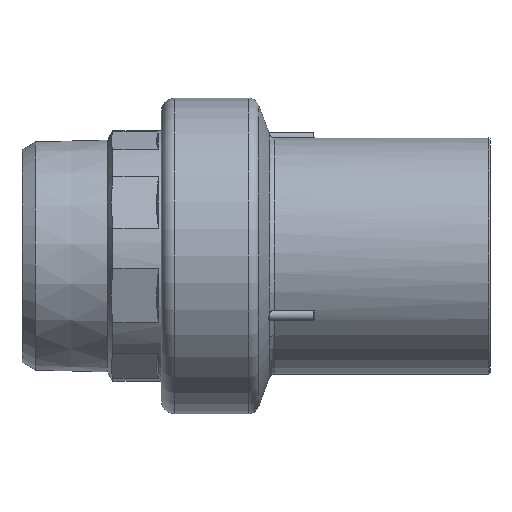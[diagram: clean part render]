
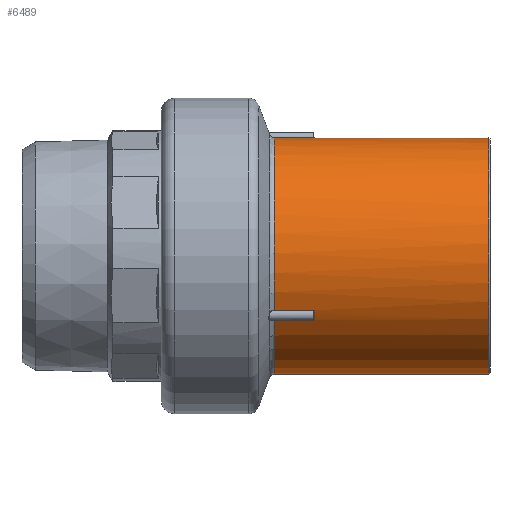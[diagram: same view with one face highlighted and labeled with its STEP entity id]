
A CAD part, front view. The second image highlights one B-rep face of the part: STEP entity #6489.
In plain terms, the highlighted cylindrical face has radius 45 mm (diameter 90 mm), a full revolution.
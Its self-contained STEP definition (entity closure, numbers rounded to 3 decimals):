
#32=LINE('',#12637,#60);
#35=LINE('',#12692,#63);
#36=LINE('',#12799,#64);
#39=LINE('',#12848,#67);
#40=LINE('',#12902,#68);
#41=LINE('',#12916,#69);
#60=VECTOR('',#9535,1000.);
#63=VECTOR('',#9560,1000.);
#64=VECTOR('',#9581,1000.);
#67=VECTOR('',#9606,1000.);
#68=VECTOR('',#9623,1000.);
#69=VECTOR('',#9626,1000.);
#228=CYLINDRICAL_SURFACE('',#8415,45.);
#512=CIRCLE('',#8369,45.);
#520=CIRCLE('',#8379,45.);
#526=CIRCLE('',#8390,45.);
#534=CIRCLE('',#8400,45.);
#540=CIRCLE('',#8411,45.);
#543=CIRCLE('',#8416,45.);
#544=CIRCLE('',#8417,45.);
#987=B_SPLINE_CURVE_WITH_KNOTS('',3,(#12705,#12706,#12707,#12708),
 .UNSPECIFIED.,.F.,.F.,(4,4),(0.,0.),.UNSPECIFIED.);
#988=B_SPLINE_CURVE_WITH_KNOTS('',3,(#12721,#12722,#12723,#12724),
 .UNSPECIFIED.,.F.,.F.,(4,4),(0.,0.),.UNSPECIFIED.);
#997=B_SPLINE_CURVE_WITH_KNOTS('',3,(#12861,#12862,#12863,#12864),
 .UNSPECIFIED.,.F.,.F.,(4,4),(0.,0.),.UNSPECIFIED.);
#998=B_SPLINE_CURVE_WITH_KNOTS('',3,(#12877,#12878,#12879,#12880),
 .UNSPECIFIED.,.F.,.F.,(4,4),(0.,0.),.UNSPECIFIED.);
#1001=B_SPLINE_CURVE_WITH_KNOTS('',3,(#12904,#12905,#12906,#12907),
 .UNSPECIFIED.,.F.,.F.,(4,4),(0.,0.),.UNSPECIFIED.);
#1002=B_SPLINE_CURVE_WITH_KNOTS('',3,(#12911,#12912,#12913,#12914),
 .UNSPECIFIED.,.F.,.F.,(4,4),(0.,0.),.UNSPECIFIED.);
#2300=ORIENTED_EDGE('',*,*,#3932,.F.);
#2301=ORIENTED_EDGE('',*,*,#3937,.T.);
#2302=ORIENTED_EDGE('',*,*,#3938,.F.);
#2303=ORIENTED_EDGE('',*,*,#3939,.T.);
#2304=ORIENTED_EDGE('',*,*,#3940,.F.);
#2305=ORIENTED_EDGE('',*,*,#3941,.T.);
#2306=ORIENTED_EDGE('',*,*,#3904,.F.);
#2307=ORIENTED_EDGE('',*,*,#3915,.T.);
#2308=ORIENTED_EDGE('',*,*,#3930,.F.);
#2309=ORIENTED_EDGE('',*,*,#3920,.T.);
#2310=ORIENTED_EDGE('',*,*,#3931,.F.);
#2311=ORIENTED_EDGE('',*,*,#3929,.T.);
#2312=ORIENTED_EDGE('',*,*,#3875,.F.);
#2313=ORIENTED_EDGE('',*,*,#3886,.T.);
#2314=ORIENTED_EDGE('',*,*,#3902,.F.);
#2315=ORIENTED_EDGE('',*,*,#3892,.T.);
#2316=ORIENTED_EDGE('',*,*,#3903,.F.);
#2317=ORIENTED_EDGE('',*,*,#3901,.T.);
#2318=ORIENTED_EDGE('',*,*,#3942,.T.);
#3875=EDGE_CURVE('',#4786,#4787,#512,.T.);
#3886=EDGE_CURVE('',#4786,#4795,#32,.F.);
#3892=EDGE_CURVE('',#4800,#4799,#520,.F.);
#3901=EDGE_CURVE('',#4803,#4796,#35,.T.);
#3902=EDGE_CURVE('',#4800,#4795,#987,.T.);
#3903=EDGE_CURVE('',#4803,#4799,#988,.T.);
#3904=EDGE_CURVE('',#4804,#4805,#526,.T.);
#3915=EDGE_CURVE('',#4804,#4812,#36,.F.);
#3920=EDGE_CURVE('',#4816,#4815,#534,.F.);
#3929=EDGE_CURVE('',#4819,#4787,#39,.T.);
#3930=EDGE_CURVE('',#4816,#4812,#997,.T.);
#3931=EDGE_CURVE('',#4819,#4815,#998,.T.);
#3932=EDGE_CURVE('',#4820,#4796,#540,.T.);
#3937=EDGE_CURVE('',#4820,#4823,#40,.F.);
#3938=EDGE_CURVE('',#4824,#4823,#1001,.T.);
#3939=EDGE_CURVE('',#4824,#4825,#543,.F.);
#3940=EDGE_CURVE('',#4826,#4825,#1002,.T.);
#3941=EDGE_CURVE('',#4826,#4805,#41,.T.);
#3942=EDGE_CURVE('',#4827,#4827,#544,.F.);
#4786=VERTEX_POINT('',#12566);
#4787=VERTEX_POINT('',#12567);
#4795=VERTEX_POINT('',#12636);
#4796=VERTEX_POINT('',#12655);
#4799=VERTEX_POINT('',#12670);
#4800=VERTEX_POINT('',#12672);
#4803=VERTEX_POINT('',#12690);
#4804=VERTEX_POINT('',#12729);
#4805=VERTEX_POINT('',#12730);
#4812=VERTEX_POINT('',#12798);
#4815=VERTEX_POINT('',#12826);
#4816=VERTEX_POINT('',#12828);
#4819=VERTEX_POINT('',#12846);
#4820=VERTEX_POINT('',#12885);
#4823=VERTEX_POINT('',#12903);
#4824=VERTEX_POINT('',#12908);
#4825=VERTEX_POINT('',#12910);
#4826=VERTEX_POINT('',#12915);
#4827=VERTEX_POINT('',#12918);
#5519=EDGE_LOOP('',(#2300,#2301,#2302,#2303,#2304,#2305,#2306,#2307,#2308,
#2309,#2310,#2311,#2312,#2313,#2314,#2315,#2316,#2317));
#5520=EDGE_LOOP('',(#2318));
#5969=FACE_BOUND('',#5519,.T.);
#5970=FACE_BOUND('',#5520,.T.);
#6489=ADVANCED_FACE('',(#5969,#5970),#228,.T.);
#8369=AXIS2_PLACEMENT_3D('',#12565,#9521,#9522);
#8379=AXIS2_PLACEMENT_3D('',#12671,#9543,#9544);
#8390=AXIS2_PLACEMENT_3D('',#12728,#9567,#9568);
#8400=AXIS2_PLACEMENT_3D('',#12827,#9589,#9590);
#8411=AXIS2_PLACEMENT_3D('',#12884,#9613,#9614);
#8415=AXIS2_PLACEMENT_3D('',#12901,#9621,#9622);
#8416=AXIS2_PLACEMENT_3D('',#12909,#9624,#9625);
#8417=AXIS2_PLACEMENT_3D('',#12917,#9627,#9628);
#9521=DIRECTION('',(-1.,0.,0.));
#9522=DIRECTION('',(0.,0.,1.));
#9535=DIRECTION('',(-1.,0.,0.));
#9543=DIRECTION('',(-1.,0.,0.));
#9544=DIRECTION('',(0.,0.5,0.866));
#9560=DIRECTION('',(-1.,0.,0.));
#9567=DIRECTION('',(-1.,0.,0.));
#9568=DIRECTION('',(0.,0.,1.));
#9581=DIRECTION('',(-1.,0.,0.));
#9589=DIRECTION('',(-1.,0.,0.));
#9590=DIRECTION('',(0.,0.5,-0.866));
#9606=DIRECTION('',(-1.,0.,0.));
#9613=DIRECTION('',(-1.,0.,0.));
#9614=DIRECTION('',(0.,0.,1.));
#9621=DIRECTION('',(-1.,0.,0.));
#9622=DIRECTION('',(0.,0.,1.));
#9623=DIRECTION('',(-1.,0.,0.));
#9624=DIRECTION('',(-1.,0.,0.));
#9625=DIRECTION('',(0.,-1.,0.));
#9626=DIRECTION('',(-1.,0.,0.));
#9627=DIRECTION('',(1.,0.,0.));
#9628=DIRECTION('',(0.,0.,-1.));
#12565=CARTESIAN_POINT('',(43.,0.,0.));
#12566=CARTESIAN_POINT('',(43.,37.882,-24.288));
#12567=CARTESIAN_POINT('',(43.,-37.882,-24.288));
#12636=CARTESIAN_POINT('',(57.9,37.882,-24.288));
#12637=CARTESIAN_POINT('',(-60.,37.882,-24.288));
#12655=CARTESIAN_POINT('',(43.,39.976,-20.663));
#12670=CARTESIAN_POINT('',(58.1,39.883,-20.841));
#12671=CARTESIAN_POINT('',(58.1,0.,0.));
#12672=CARTESIAN_POINT('',(58.1,37.99,-24.119));
#12690=CARTESIAN_POINT('',(57.9,39.976,-20.663));
#12692=CARTESIAN_POINT('',(-60.,39.976,-20.663));
#12705=CARTESIAN_POINT('',(58.1,37.99,-24.119));
#12706=CARTESIAN_POINT('',(58.1,37.934,-24.209));
#12707=CARTESIAN_POINT('',(58.006,37.882,-24.288));
#12708=CARTESIAN_POINT('',(57.9,37.882,-24.288));
#12721=CARTESIAN_POINT('',(57.9,39.976,-20.663));
#12722=CARTESIAN_POINT('',(58.006,39.976,-20.663));
#12723=CARTESIAN_POINT('',(58.1,39.932,-20.747));
#12724=CARTESIAN_POINT('',(58.1,39.883,-20.841));
#12728=CARTESIAN_POINT('',(43.,0.,0.));
#12729=CARTESIAN_POINT('',(43.,-39.976,-20.663));
#12730=CARTESIAN_POINT('',(43.,-2.093,44.951));
#12798=CARTESIAN_POINT('',(57.9,-39.976,-20.663));
#12799=CARTESIAN_POINT('',(-60.,-39.976,-20.663));
#12826=CARTESIAN_POINT('',(58.1,-37.99,-24.119));
#12827=CARTESIAN_POINT('',(58.1,0.,0.));
#12828=CARTESIAN_POINT('',(58.1,-39.883,-20.841));
#12846=CARTESIAN_POINT('',(57.9,-37.882,-24.288));
#12848=CARTESIAN_POINT('',(-60.,-37.882,-24.288));
#12861=CARTESIAN_POINT('',(58.1,-39.883,-20.841));
#12862=CARTESIAN_POINT('',(58.1,-39.932,-20.747));
#12863=CARTESIAN_POINT('',(58.006,-39.976,-20.663));
#12864=CARTESIAN_POINT('',(57.9,-39.976,-20.663));
#12877=CARTESIAN_POINT('',(57.9,-37.882,-24.288));
#12878=CARTESIAN_POINT('',(58.006,-37.882,-24.288));
#12879=CARTESIAN_POINT('',(58.1,-37.934,-24.209));
#12880=CARTESIAN_POINT('',(58.1,-37.99,-24.119));
#12884=CARTESIAN_POINT('',(43.,0.,0.));
#12885=CARTESIAN_POINT('',(43.,2.093,44.951));
#12901=CARTESIAN_POINT('',(-60.,0.,0.));
#12902=CARTESIAN_POINT('',(-60.,2.093,44.951));
#12903=CARTESIAN_POINT('',(57.9,2.093,44.951));
#12904=CARTESIAN_POINT('',(58.1,1.893,44.96));
#12905=CARTESIAN_POINT('',(58.1,1.999,44.956));
#12906=CARTESIAN_POINT('',(58.006,2.093,44.951));
#12907=CARTESIAN_POINT('',(57.9,2.093,44.951));
#12908=CARTESIAN_POINT('',(58.1,1.893,44.96));
#12909=CARTESIAN_POINT('',(58.1,0.,0.));
#12910=CARTESIAN_POINT('',(58.1,-1.893,44.96));
#12911=CARTESIAN_POINT('',(57.9,-2.093,44.951));
#12912=CARTESIAN_POINT('',(58.006,-2.093,44.951));
#12913=CARTESIAN_POINT('',(58.1,-1.999,44.956));
#12914=CARTESIAN_POINT('',(58.1,-1.893,44.96));
#12915=CARTESIAN_POINT('',(57.9,-2.093,44.951));
#12916=CARTESIAN_POINT('',(-60.,-2.093,44.951));
#12917=CARTESIAN_POINT('',(124.5,0.,0.));
#12918=CARTESIAN_POINT('',(124.5,0.,-45.));
